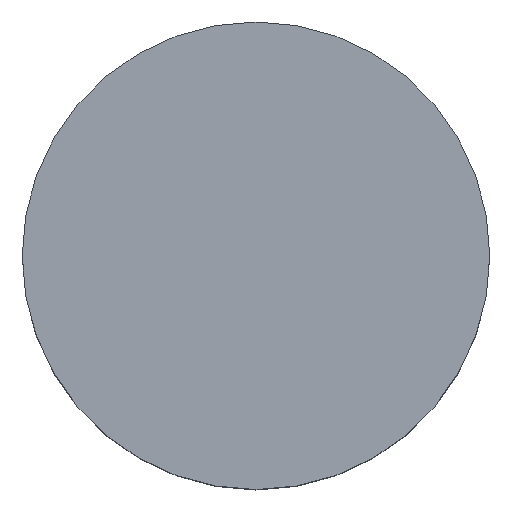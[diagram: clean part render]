
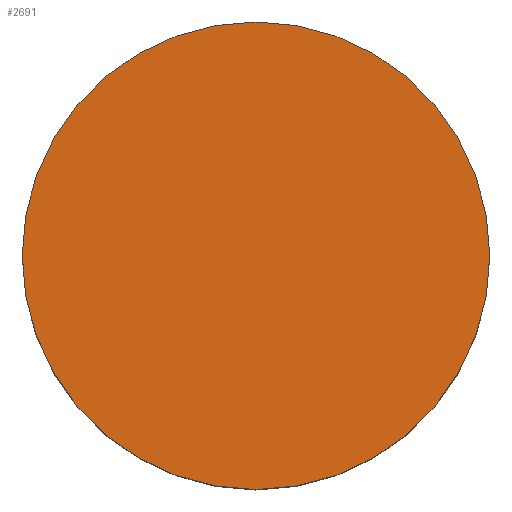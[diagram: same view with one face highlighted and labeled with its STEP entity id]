
A CAD part, top view. The second image highlights one B-rep face of the part: STEP entity #2691.
In plain terms, the highlighted planar face has unit normal (0, 0, 1).
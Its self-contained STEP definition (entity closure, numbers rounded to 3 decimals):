
#719 = CARTESIAN_POINT ( 'NONE',  ( -29.3, 0., 32.2 ) ) ;
#1315 = CARTESIAN_POINT ( 'NONE',  ( 0., 0., 32.2 ) ) ;
#1623 = AXIS2_PLACEMENT_3D ( 'NONE', #1315, #17488, #8741 ) ;
#2332 = ORIENTED_EDGE ( 'NONE', *, *, #10379, .T. ) ;
#2340 = DIRECTION ( 'NONE',  ( 0., 0., 1. ) ) ;
#2691 = ADVANCED_FACE ( 'NONE', ( #11956 ), #11114, .T. ) ;
#2759 = DIRECTION ( 'NONE',  ( 0., 0., 1. ) ) ;
#5689 = DIRECTION ( 'NONE',  ( 0., -1., 0. ) ) ;
#7116 = EDGE_CURVE ( 'NONE', #18125, #7546, #15873, .T. ) ;
#7546 = VERTEX_POINT ( 'NONE', #719 ) ;
#8741 = DIRECTION ( 'NONE',  ( 0., -1., 0. ) ) ;
#8816 = CIRCLE ( 'NONE', #1623, 29.3 ) ;
#9008 = AXIS2_PLACEMENT_3D ( 'NONE', #18586, #2759, #5689 ) ;
#9096 = EDGE_LOOP ( 'NONE', ( #2332, #11963 ) ) ;
#10379 = EDGE_CURVE ( 'NONE', #7546, #18125, #8816, .T. ) ;
#10458 = CARTESIAN_POINT ( 'NONE',  ( 29.3, 0., 32.2 ) ) ;
#11114 = PLANE ( 'NONE',  #15474 ) ;
#11956 = FACE_OUTER_BOUND ( 'NONE', #9096, .T. ) ;
#11963 = ORIENTED_EDGE ( 'NONE', *, *, #7116, .T. ) ;
#12569 = DIRECTION ( 'NONE',  ( 0., -1., 0. ) ) ;
#15474 = AXIS2_PLACEMENT_3D ( 'NONE', #18341, #2340, #12569 ) ;
#15873 = CIRCLE ( 'NONE', #9008, 29.3 ) ;
#17488 = DIRECTION ( 'NONE',  ( 0., 0., 1. ) ) ;
#18125 = VERTEX_POINT ( 'NONE', #10458 ) ;
#18341 = CARTESIAN_POINT ( 'NONE',  ( -29.3, 45.771, 32.2 ) ) ;
#18586 = CARTESIAN_POINT ( 'NONE',  ( 0., 0., 32.2 ) ) ;
